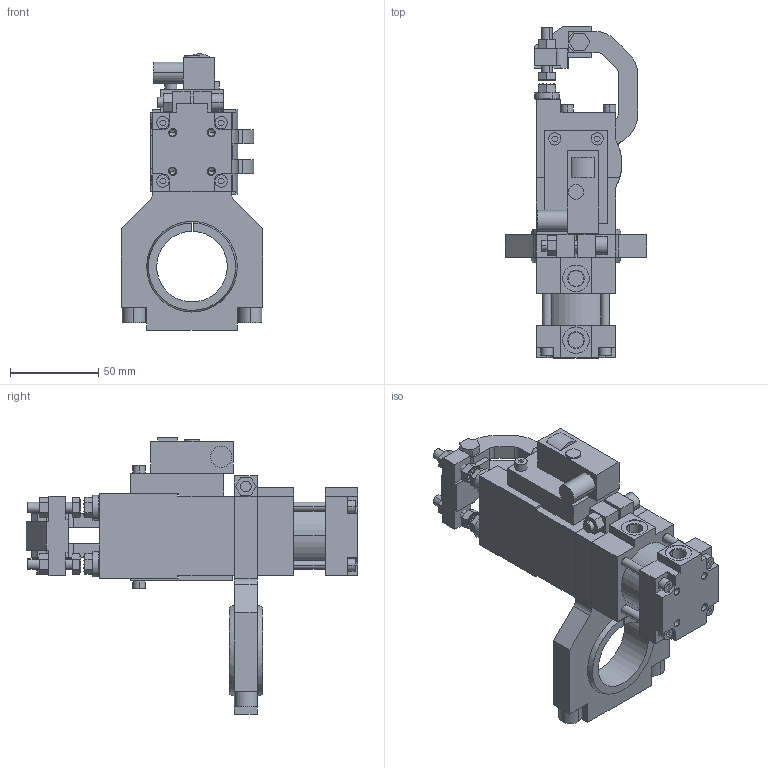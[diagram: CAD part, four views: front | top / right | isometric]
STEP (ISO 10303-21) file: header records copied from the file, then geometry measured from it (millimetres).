
FILE_DESCRIPTION (( 'STEP AP214' ), '1' );
FILE_NAME ('b32_a2s4_pla___a_b40.STEP', '2018-05-08T12:49:48', ( 'vepadmin' ), ( 'Hewlett-Packard Company' ), 'SwSTEP 2.0', 'SolidWorks 2018', '' );
FILE_SCHEMA (( 'AUTOMOTIVE_DESIGN' ));
Length unit declared in the file: millimetre
Products named in the file (13): b32_a2s4_pla___a_b40; calotta_sferica_40_b32; attacco_b40_b32; rondella_s4_b32a; piedino_zigrinato_M6x25; piedino_zigrinato_M6x10; gruppo_cilindro_b32; tassello_a2_b32; blocchetto_p&f_90; scatola_micro_b32; riparo_micro_b32; leva_b32a; gruppo_montante_b32a
Assembly tree (15 placements, depth 2):
  b32_a2s4_pla___a_b40
    gruppo_montante_b32a
    leva_b32a
    riparo_micro_b32
    scatola_micro_b32
    blocchetto_p&f_90
    tassello_a2_b32
    gruppo_cilindro_b32
    piedino_zigrinato_M6x10  x2
    piedino_zigrinato_M6x25  x2
    rondella_s4_b32a  x2
    attacco_b40_b32
    calotta_sferica_40_b32
Bounding box: 80 x 188 x 156.6 mm (x, y, z)
Volume: 403724.5 mm3; surface area: 117493.5 mm2
Topology: 15 solids, 15 shells, 1096 faces, 2596 edges, 1674 vertices
Faces by surface type: plane 783, cylinder 259, cone 50, sphere 4
Entity records: 24982 total; most frequent: CARTESIAN_POINT 4488, DIRECTION 4110, ORIENTED_EDGE 4066, EDGE_CURVE 2033, VECTOR 1496, LINE 1496, VERTEX_POINT 1325, AXIS2_PLACEMENT_3D 1307
